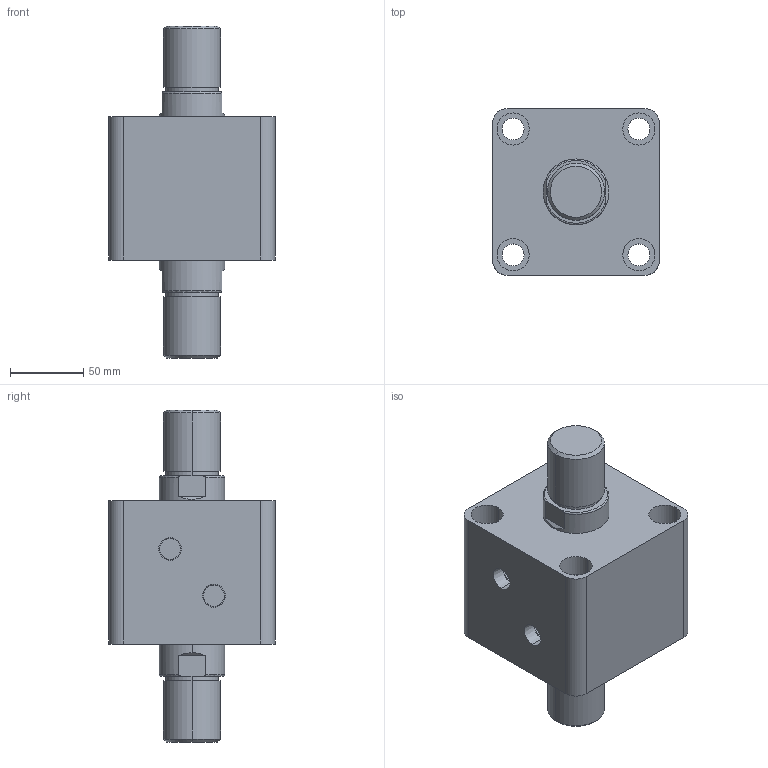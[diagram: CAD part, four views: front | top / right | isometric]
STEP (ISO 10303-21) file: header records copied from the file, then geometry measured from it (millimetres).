
FILE_DESCRIPTION (( 'STEP AP203' ), '1' );
FILE_NAME ('HTB-SW80-5W.STEP', '2019-10-07T10:18:28', ( '微软用户' ), ( '微软中国' ), 'SwSTEP 2.0', 'SolidWorks 2012', '' );
FILE_SCHEMA (( 'CONFIG_CONTROL_DESIGN' ));
Length unit declared in the file: millimetre
Products named in the file (3): HTB-SW80-5W; HTB-SW80-5W活塞杆; HTB-SW80-5掛极
Assembly tree (2 placements, depth 2):
  HTB-SW80-5W
    HTB-SW80-5掛极
    HTB-SW80-5W活塞杆
Bounding box: 114 x 114 x 227 mm (x, y, z)
Volume: 1316663.2 mm3; surface area: 155177.9 mm2
Topology: 2 solids, 2 shells, 108 faces, 240 edges, 156 vertices
Faces by surface type: cylinder 52, plane 36, torus 12, cone 8
Entity records: 3449 total; most frequent: CARTESIAN_POINT 629, DIRECTION 586, ORIENTED_EDGE 480, AXIS2_PLACEMENT_3D 249, EDGE_CURVE 240, VERTEX_POINT 156, EDGE_LOOP 138, CIRCLE 136
